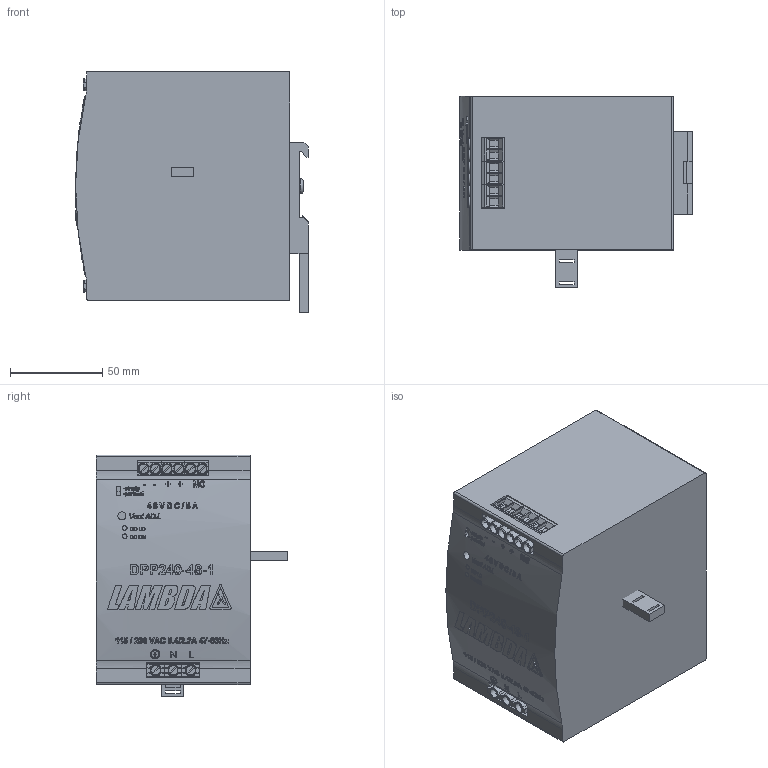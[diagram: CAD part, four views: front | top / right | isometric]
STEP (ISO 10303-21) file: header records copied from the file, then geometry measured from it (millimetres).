
FILE_DESCRIPTION( ( 'Unknown' ), '1' );
FILE_NAME( 'P:/juan/DPP240-48-1.stp', 'Unknown', ( 'Unknown' ), ( 'Unknown' ), 'XStep 1.0', 'Unknown', ' ' );
FILE_SCHEMA( ( 'CONFIG_CONTROL_DESIGN' ) );
Length unit declared in the file: millimetre
Products named in the file (8): 6 TERMINAL CONNECTOR .25 SPACING; Assem1; 3 TERMINAL CONNECTOR .375 SPACING; 2 TERMINAL CONNECTOR .4 SPACING; 2 TERMINAL CONNECTOR .25 SPACING; DPP240-48-1; DIN RAIL CLAMP; 8-36x .312 PHL PAN HD
Bounding box: 126.26 x 104 x 131.21 mm (x, y, z)
Surface area: 185363.7 mm2
Topology: 19 solids, 19 shells, 3909 faces, 9944 edges, 6568 vertices
Faces by surface type: plane 3001, cylinder 560, extrusion 282, torus 51, cone 15
Full cylindrical faces by diameter (mm): 0.457 x12, 1.3 x24, 2.3 x4, 2.54 x4, 3.401 x6, 4 x2, 4.166 x3, 4.4 x2, 4.623 x6, 5 x26, 5.2 x24, 7.976 x3
Entity records: 48062 total; most frequent: CARTESIAN_POINT 16582, ORIENTED_EDGE 6472, DIRECTION 5917, EDGE_CURVE 3236, VECTOR 2537, LINE 2396, VERTEX_POINT 2169, AXIS2_PLACEMENT_3D 1690
